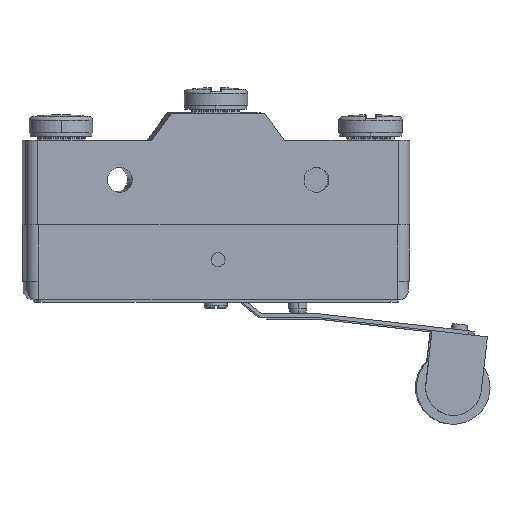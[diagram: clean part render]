
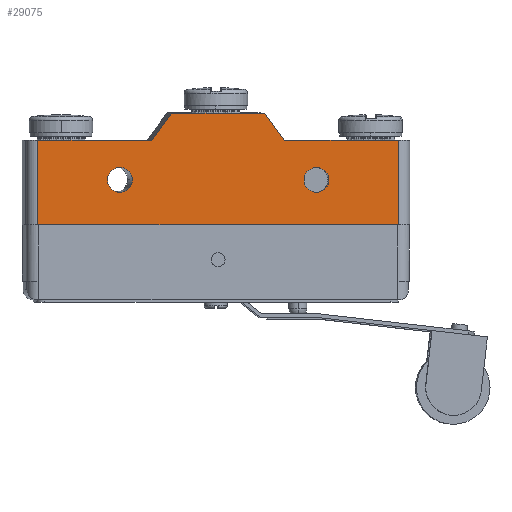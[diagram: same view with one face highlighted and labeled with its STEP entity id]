
A CAD part, top view. The second image highlights one B-rep face of the part: STEP entity #29075.
In plain terms, the highlighted planar face has unit normal (0.033, -0.004, 0.999).
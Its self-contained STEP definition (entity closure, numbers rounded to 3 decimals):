
#5551=DIRECTION('',(0.,1.,0.004));
#5552=VECTOR('',#5551,276.86);
#5553=CARTESIAN_POINT('',(1235.961,195.014,-41.848));
#5554=LINE('',#5553,#5552);
#5559=DIRECTION('',(0.,1.,0.004));
#5560=VECTOR('',#5559,276.86);
#5561=CARTESIAN_POINT('',(52.979,194.928,-2.397));
#5562=LINE('',#5561,#5560);
#5563=DIRECTION('',(0.999,0.,-0.033));
#5564=VECTOR('',#5563,373.38);
#5565=CARTESIAN_POINT('',(52.996,471.786,-1.27));
#5566=LINE('',#5565,#5564);
#5567=DIRECTION('',(0.596,0.803,-0.017));
#5568=VECTOR('',#5567,110.745);
#5569=CARTESIAN_POINT('',(426.169,471.813,-13.715));
#5570=LINE('',#5569,#5568);
#5571=DIRECTION('',(0.596,-0.803,-0.023));
#5572=VECTOR('',#5571,110.745);
#5573=CARTESIAN_POINT('',(796.808,560.739,-25.713));
#5574=LINE('',#5573,#5572);
#5575=DIRECTION('',(-0.999,0.,0.033));
#5576=VECTOR('',#5575,1183.64);
#5577=CARTESIAN_POINT('',(1235.961,195.014,-41.848));
#5578=LINE('',#5577,#5576);
#5579=CARTESIAN_POINT('',(322.078,342.266,-10.771));
#5580=DIRECTION('',(0.033,-0.004,0.999));
#5581=DIRECTION('',(0.999,0.,-0.033));
#5582=AXIS2_PLACEMENT_3D('',#5579,#5580,#5581);
#5584=CARTESIAN_POINT('',(322.078,342.266,-10.771));
#5585=DIRECTION('',(0.033,-0.004,0.999));
#5586=DIRECTION('',(-0.999,0.,0.033));
#5587=AXIS2_PLACEMENT_3D('',#5584,#5585,#5586);
#5589=CARTESIAN_POINT('',(966.88,342.313,-32.274));
#5590=DIRECTION('',(0.033,-0.004,0.999));
#5591=DIRECTION('',(0.999,0.,-0.033));
#5592=AXIS2_PLACEMENT_3D('',#5589,#5590,#5591);
#5594=CARTESIAN_POINT('',(966.88,342.313,-32.274));
#5595=DIRECTION('',(0.033,-0.004,0.999));
#5596=DIRECTION('',(-0.999,0.,0.033));
#5597=AXIS2_PLACEMENT_3D('',#5594,#5595,#5596);
#6521=DIRECTION('',(-0.999,0.,0.033));
#6522=VECTOR('',#6521,304.8);
#6523=CARTESIAN_POINT('',(796.808,560.739,-25.713));
#6524=LINE('',#6523,#6522);
#7438=DIRECTION('',(-0.999,0.,0.033));
#7439=VECTOR('',#7438,373.38);
#7440=CARTESIAN_POINT('',(1235.979,471.872,-40.721));
#7441=LINE('',#7440,#7439);
#17137=CARTESIAN_POINT('',(426.169,471.813,
-13.715));
#17139=VERTEX_POINT('',#17137);
#17141=CARTESIAN_POINT('',(52.996,471.786,
-1.27));
#17143=VERTEX_POINT('',#17141);
#17161=CARTESIAN_POINT('',(52.979,194.928,
-2.397));
#17163=VERTEX_POINT('',#17161);
#17164=CARTESIAN_POINT('',(1235.961,195.014,
-41.848));
#17166=VERTEX_POINT('',#17164);
#17188=CARTESIAN_POINT('',(492.178,560.717,
-15.554));
#17189=VERTEX_POINT('',#17188);
#17190=CARTESIAN_POINT('',(796.808,560.739,
-25.713));
#17191=VERTEX_POINT('',#17190);
#17192=CARTESIAN_POINT('',(862.806,471.845,
-28.276));
#17193=VERTEX_POINT('',#17192);
#17194=CARTESIAN_POINT('',(1235.979,471.872,
-40.721));
#17195=VERTEX_POINT('',#17194);
#17196=CARTESIAN_POINT('',(362.696,342.269,
-12.126));
#17197=CARTESIAN_POINT('',(281.461,342.263,
-9.416));
#17198=VERTEX_POINT('',#17196);
#17199=VERTEX_POINT('',#17197);
#17200=CARTESIAN_POINT('',(1007.497,342.316,
-33.629));
#17201=CARTESIAN_POINT('',(926.263,342.31,
-30.92));
#17202=VERTEX_POINT('',#17200);
#17203=VERTEX_POINT('',#17201);
#29043=CARTESIAN_POINT('',(644.481,377.849,
-21.378));
#29044=DIRECTION('',(0.033,-0.004,0.999));
#29045=DIRECTION('',(0.999,0.,-0.033));
#29046=AXIS2_PLACEMENT_3D('',#29043,#29044,#29045);
#29047=PLANE('',#29046);
#29048=ORIENTED_EDGE('',*,*,#28934,.T.);
#29050=ORIENTED_EDGE('',*,*,#29049,.T.);
#29052=ORIENTED_EDGE('',*,*,#29051,.T.);
#29054=ORIENTED_EDGE('',*,*,#29053,.F.);
#29056=ORIENTED_EDGE('',*,*,#29055,.T.);
#29058=ORIENTED_EDGE('',*,*,#29057,.F.);
#29059=ORIENTED_EDGE('',*,*,#29035,.F.);
#29060=ORIENTED_EDGE('',*,*,#28894,.T.);
#29061=EDGE_LOOP('',(#29048,#29050,#29052,#29054,#29056,#29058,#29059,#29060));
#29062=FACE_OUTER_BOUND('',#29061,.F.);
#29064=ORIENTED_EDGE('',*,*,#29063,.T.);
#29066=ORIENTED_EDGE('',*,*,#29065,.T.);
#29067=EDGE_LOOP('',(#29064,#29066));
#29068=FACE_BOUND('',#29067,.F.);
#29070=ORIENTED_EDGE('',*,*,#29069,.T.);
#29072=ORIENTED_EDGE('',*,*,#29071,.T.);
#29073=EDGE_LOOP('',(#29070,#29072));
#29074=FACE_BOUND('',#29073,.F.);
#29075=ADVANCED_FACE('',(#29062,#29068,#29074),#29047,.T.);
#5583=CIRCLE('',#5582,40.64);
#5588=CIRCLE('',#5587,40.64);
#5593=CIRCLE('',#5592,40.64);
#5598=CIRCLE('',#5597,40.64);
#28894=EDGE_CURVE('',#17166,#17163,#5578,.T.);
#28934=EDGE_CURVE('',#17163,#17143,#5562,.T.);
#29035=EDGE_CURVE('',#17166,#17195,#5554,.T.);
#29049=EDGE_CURVE('',#17143,#17139,#5566,.T.);
#29051=EDGE_CURVE('',#17139,#17189,#5570,.T.);
#29053=EDGE_CURVE('',#17191,#17189,#6524,.T.);
#29055=EDGE_CURVE('',#17191,#17193,#5574,.T.);
#29057=EDGE_CURVE('',#17195,#17193,#7441,.T.);
#29063=EDGE_CURVE('',#17198,#17199,#5583,.T.);
#29065=EDGE_CURVE('',#17199,#17198,#5588,.T.);
#29069=EDGE_CURVE('',#17202,#17203,#5593,.T.);
#29071=EDGE_CURVE('',#17203,#17202,#5598,.T.);
